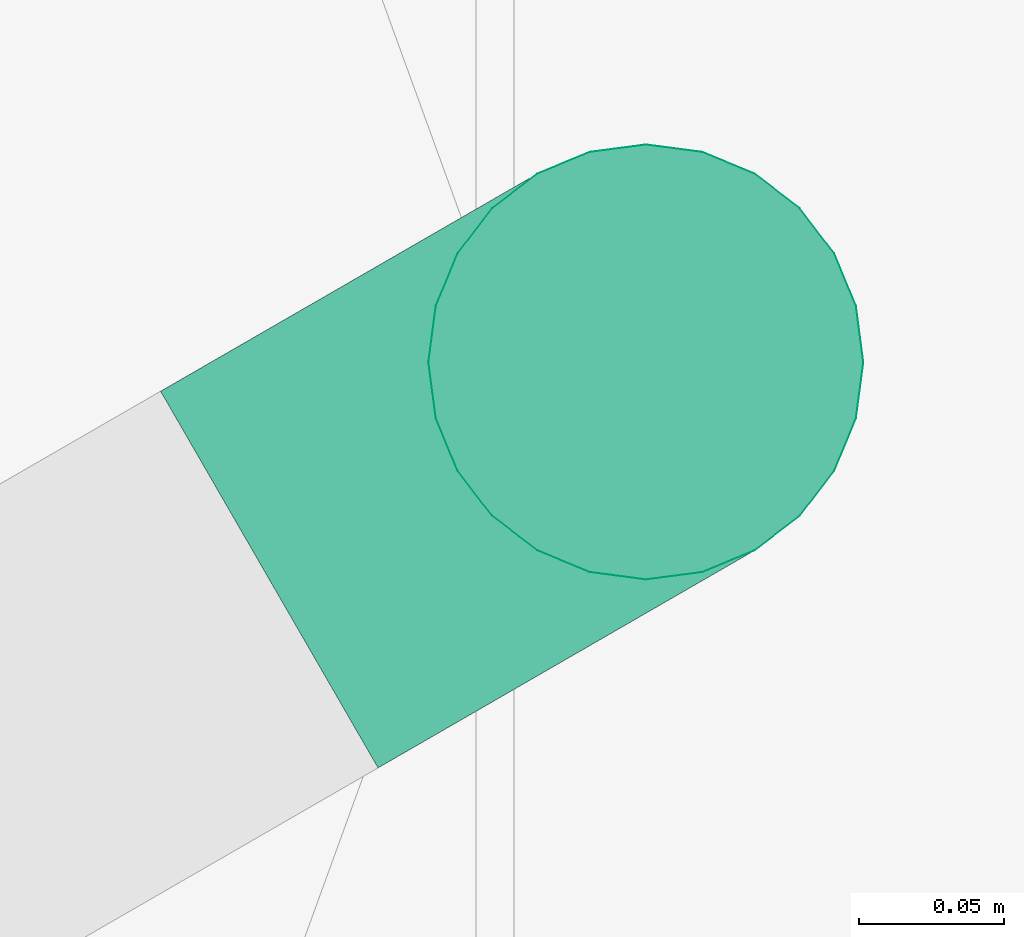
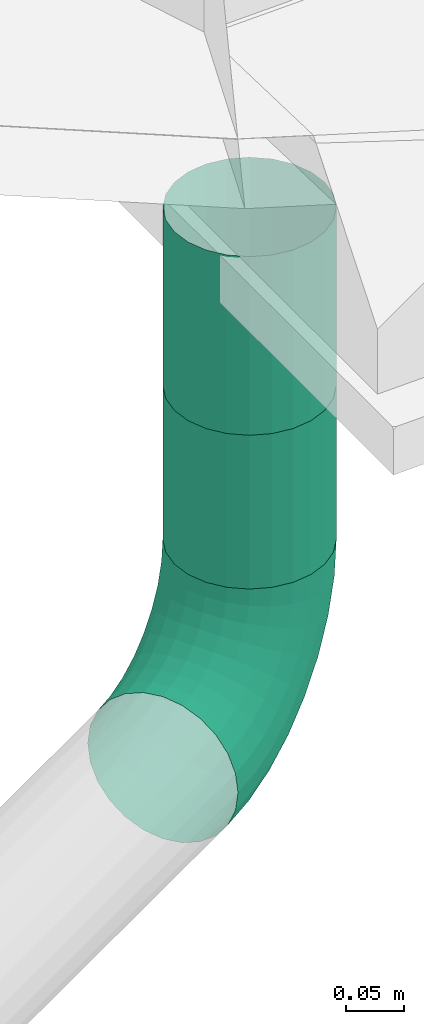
# One storey, part 8 of 8: 3 pipe segments.
"""IFC4 building model written with IfcOpenShell, lengths in millimetres."""

from ifc_helpers import new_model, entity, si_unit, converted_unit, derived_unit, direction, frame, origin_with_axes, place, context, subcontext, project, spatial, polygons, type_object, element, save


model = new_model("IFC4")

# Units and contexts
model_context = context("Model", 3, precision=0.01, world=origin_with_axes(), true_north=direction((0.0, 1.0)))
body_context = subcontext(model_context, "Body", "Model", "MODEL_VIEW")
ifc_project = project(units=[si_unit("LENGTHUNIT", "METRE", prefix="MILLI"), si_unit("AREAUNIT", "SQUARE_METRE"), si_unit("VOLUMEUNIT", "CUBIC_METRE"), converted_unit("PLANEANGLEUNIT", "DEGREE", entity("IfcPlaneAngleMeasure", 0.0174532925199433), si_unit("PLANEANGLEUNIT", "RADIAN"), dimensions=[0, 0, 0, 0, 0, 0, 0]), converted_unit("TIMEUNIT", "Year", entity("IfcTimeMeasure", 31557600.0), si_unit("TIMEUNIT", "SECOND"), dimensions=[0, 0, 1, 0, 0, 0, 0]), si_unit("MASSUNIT", "GRAM", prefix="KILO"), si_unit("THERMODYNAMICTEMPERATUREUNIT", "DEGREE_CELSIUS"), si_unit("LUMINOUSINTENSITYUNIT", "LUMEN"), si_unit("ENERGYUNIT", "JOULE", prefix="MEGA"), derived_unit("THERMALCONDUCTANCEUNIT", [(si_unit("POWERUNIT", "WATT"), 1), (si_unit("LENGTHUNIT", "METRE"), -1), (si_unit("THERMODYNAMICTEMPERATUREUNIT", "KELVIN"), -1)]), derived_unit("SPECIFICHEATCAPACITYUNIT", [(si_unit("ENERGYUNIT", "JOULE"), 1), (si_unit("MASSUNIT", "GRAM", prefix="KILO"), -1), (si_unit("THERMODYNAMICTEMPERATUREUNIT", "KELVIN"), -1)]), derived_unit("MASSDENSITYUNIT", [(si_unit("MASSUNIT", "GRAM", prefix="KILO"), 1), (si_unit("VOLUMEUNIT", "CUBIC_METRE"), -1)])], contexts=[model_context])

# Site, building, storey
site_placement = place(None, origin_with_axes())
site = spatial("IfcSite", under=ifc_project, at=site_placement, Name="Gelände", CompositionType="ELEMENT")
building_placement = place(site_placement, origin_with_axes())
building = spatial("IfcBuilding", under=site, at=building_placement, Name="Gebäude", CompositionType="ELEMENT")
storey_placement = place(building_placement, frame((0.0, 0.0, -6000.0), z_axis=(0.0, 0.0, 1.0), x_axis=(1.0, 0.0, 0.0)))
storey = spatial("IfcBuildingStorey", under=building, at=storey_placement, Name="Fundation", CompositionType="ELEMENT", Elevation=-6000.0)

# Pipe segments
pipe_segment_type = type_object("IfcPipeSegmentType", Name="IfcPipeSegment", PredefinedType="NOTDEFINED")
pipe_segment_1_placement = place(storey_placement, frame((-5525.464801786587, 31197.59725747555, 1087.897735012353), z_axis=(1.0, 0.0, 0.0), x_axis=(0.0, 1.0, 0.0)))
element("IfcPipeSegment", 1, at=pipe_segment_1_placement, inside=storey, type_object=pipe_segment_type, Name="Rohrbogen - 001", PredefinedType="NOTDEFINED", context=body_context, shape_type="Tessellation", body=[
    polygons([(-37.50000000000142, 0.0, -64.95190528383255), (-19.41142838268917, 0.0, -72.44443697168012), (-20.15653258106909, -15.13033976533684, -73.73499530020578), (-38.22055198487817, -14.63177415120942, -66.19993793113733), (0.0, 0.0, -75.00000000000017), (-0.817087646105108, -16.5920601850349, -76.41523731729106), (-22.36321123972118, -29.6792290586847, -77.55707485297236), (-40.35451753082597, -28.7012574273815, -69.89607467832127), (-53.03300858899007, 0.0, -53.03300858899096), (-53.77811278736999, -15.13033976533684, -54.32356691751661), (19.41142838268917, 0.0, -72.44443697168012), (18.47983160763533, -18.91732157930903, -74.05800991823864), (-3.236950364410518, -32.54649680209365, -80.60656249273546), (-25.94666293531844, -43.08756222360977, -83.76379525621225), (-43.81988953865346, -41.66776747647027, -75.89827506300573), (-55.98479144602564, -29.6792290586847, -58.1456464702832), (-64.95190528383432, 0.0, -37.49999999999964), (-65.76899292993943, -16.5920601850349, -38.91523731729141), (37.50000000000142, 0.0, -64.95190528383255), (36.41917202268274, -21.94766122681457, -66.82395425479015), (15.7208420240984, -37.10766109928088, -78.83672005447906), (-7.166594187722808, -47.25018979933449, -87.41290525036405), (-30.76917762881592, -54.84006453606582, -92.11663572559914), (-48.48349570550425, -53.03300858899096, -83.97587789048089), (-59.56824314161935, -43.08756222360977, -64.35236687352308), (-68.18885564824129, -32.54649680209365, -43.10656249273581), (-72.44443697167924, 0.0, -19.41142838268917), (-73.37603374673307, -18.91732157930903, -21.02500132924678), (53.03300858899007, 0.0, -53.03300858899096), (51.77839719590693, -25.47656648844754, -55.20605926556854), (33.21822370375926, -43.05188614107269, -72.36815937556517), (11.24048605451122, -53.8719740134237, -86.59692422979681), (-12.45500510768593, -60.13808450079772, -96.57270165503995), (-36.64542878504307, -64.48509392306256, -102.2946012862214), (-54.16611626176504, -62.36022092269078, -93.81846541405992), (-64.39075783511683, -54.84006453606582, -72.70520734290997), (-72.11849947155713, -47.25018979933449, -49.91290525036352), (-76.13502333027, -37.10766109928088, -25.80371146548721), (-74.99999999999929, 0.0, 0.0), (-76.08082797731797, -21.94766122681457, -1.872048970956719), (64.95190528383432, 0.0, -37.49999999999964), (63.51080131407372, -29.26354830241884, -39.9960652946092), (48.06277702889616, -49.97408281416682, -61.64170217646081), (28.02016569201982, -62.50165121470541, -81.37145995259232), (5.210941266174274, -68.56601717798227, -97.04040214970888), (-18.89895245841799, -70.71490634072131, -107.7339458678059), (-43.3495953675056, -71.65199731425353, -113.9065584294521), (-60.64937128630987, -69.29096493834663, -105.0477925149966), (-70.26700899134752, -64.48509392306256, -82.8831729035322), (-77.4069103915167, -60.13808450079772, -59.07270165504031), (-80.61537929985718, -53.8719740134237, -33.56391564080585), (-79.28177629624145, -43.05188614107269, -7.416254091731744), (-72.44443697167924, 0.0, 19.41142838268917), (-73.69904836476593, -25.47656648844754, 17.23837770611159), (72.44443697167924, 0.0, -19.41142838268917), (70.81684042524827, -33.05053011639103, -22.23050829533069), (59.24287022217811, -57.40251485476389, -47.38833878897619), (42.02893728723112, -72.55112316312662, -72.09261917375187), (21.02475644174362, -79.54951288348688, -93.48786419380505), (-2.136080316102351, -80.62510675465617, -109.7658168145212), (-26.25079895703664, -78.57419398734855, -120.467717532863), (-50.6240400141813, -76.06535463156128, -126.5062661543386), (-67.6841129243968, -73.55889603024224, -117.232322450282), (-76.97117557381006, -71.65199731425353, -94.49513004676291), (-83.85085774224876, -70.71490634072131, -70.23394586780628), (-86.64492408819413, -68.56601717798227, -44.00739356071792), (-84.4798343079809, -62.50165121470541, -16.41955466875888), (-77.4146685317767, -49.97408281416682, 10.80273479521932), (-64.95190528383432, 0.0, 37.49999999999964), (-66.39300925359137, -29.26354830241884, 35.00393470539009), (74.99999999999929, 0.0, 0.0), (73.19862003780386, -36.57943537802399, -3.120081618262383), (65.99659840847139, -64.83094689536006, -30.57941237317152), (52.31212620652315, -83.33553495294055, -59.39273955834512), (33.90875504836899, -92.34006453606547, -86.15718737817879), (12.50082560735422, -93.54033138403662, -108.2517454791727), (-10.51823677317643, -89.58581869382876, -124.2841376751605), (-34.22801726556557, -83.41391942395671, -134.2846649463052), (-58.18920989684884, -77.55556302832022, -139.6095247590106), (-74.99999999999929, -75.00000000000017, -129.903810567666), (-84.24562022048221, -76.06535463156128, -107.0948377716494), (-91.20270424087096, -78.57419398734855, -82.96771753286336), (-93.99194567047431, -80.62510675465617, -56.73280822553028), (-91.47524355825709, -79.54951288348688, -28.53595890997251), (-83.44850827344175, -72.55112316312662, 0.3518177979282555), (-70.66094034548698, -57.40251485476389, 27.61166121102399), (-53.03300858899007, 0.0, 53.03300858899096), (-54.66060513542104, -33.05053011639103, 50.21392867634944), (72.44443697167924, 0.0, 19.41142838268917), (70.49382580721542, -39.60977502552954, 16.03287074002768), (67.86370617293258, -71.75314356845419, -12.36042348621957), (58.16895011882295, -94.11994674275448, -44.13729691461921), (42.9849138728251, -106.0660171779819, -75.54794521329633), (24.01428436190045, -108.5804290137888, -103.2949133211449), (2.775943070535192, -103.9364474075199, -125.0957361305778), (-19.61340653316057, -95.1037978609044, -140.0374338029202), (-42.52404735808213, -85.04809471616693, -148.6538105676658), (-91.81079010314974, -77.55556302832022, -120.1980963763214), (-99.17992254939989, -83.41391942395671, -96.78466494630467), (-102.3741021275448, -89.58581869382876, -71.25112908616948), (-99.9991743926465, -93.54033138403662, -43.29984019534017), (-91.56869051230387, -92.34006453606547, -13.71275040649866), (-77.59168436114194, -83.33553495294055, 15.60726044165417), (-59.48084715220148, -64.83094689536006, 41.8650245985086), (-37.50000000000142, 0.0, 64.95190528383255), (-39.30137996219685, -36.57943537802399, 61.83182366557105), (64.95190528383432, 0.0, 37.49999999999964), (62.88678499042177, -41.93503641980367, 33.92310672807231), (64.71695320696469, -77.697368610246, 6.027033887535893), (59.2002761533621, -104.1694186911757, -27.36592444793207), (47.63470769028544, -119.7919698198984, -62.38314002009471), (31.61967276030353, -124.7204418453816, -95.23312026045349), (12.72576418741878, -120.648108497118, -122.8472038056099), (-7.776169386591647, -110.3383440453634, -143.3725310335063), (-29.07206732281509, -96.96699141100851, -156.420314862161), (-107.4759526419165, -85.04809471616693, -111.1538105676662), (-111.469271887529, -95.1037978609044, -87.00442521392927), (-109.724056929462, -103.9364474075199, -60.14383084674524), (-101.4631611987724, -108.5804290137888, -30.85047634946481), (-86.91889669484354, -106.0660171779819, -0.5479452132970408), (-67.30849544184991, -94.11994674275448, 28.30714005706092), (-44.63629382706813, -71.75314356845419, 52.59148179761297), (-19.41142838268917, 0.0, 72.44443697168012), (-21.36203954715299, -39.60977502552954, 69.06587932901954), (53.03300858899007, 0.0, 53.03300858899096), (50.89590484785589, -43.39675683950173, 49.33143632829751), (56.77078552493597, -82.25853290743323, 23.32988491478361), (55.33582114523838, -112.7990958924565, -10.2215634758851), (47.54126073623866, -132.5825214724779, -47.55993151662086), (34.79869615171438, -140.8604546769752, -84.61576417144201), (18.65316271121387, -138.5819298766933, -117.6917744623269), (0.4770060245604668, -128.0793488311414, -144.0626752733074), (-18.75000000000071, -112.4999999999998, -162.3797632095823), (-120.9279326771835, -96.96699141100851, -103.3873062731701), (-120.2761693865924, -110.3383440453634, -78.4206257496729), (-112.7516813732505, -120.648108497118, -50.40276683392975), (-98.28413780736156, -124.7204418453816, -20.23312026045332), (-77.84273787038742, -119.7919698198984, 10.06129695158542), (-53.29972384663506, -104.1694186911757, 37.58598083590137), (-27.13891214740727, -77.697368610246, 59.06004247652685), (0.0, 0.0, 75.00000000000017), (-2.065120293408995, -41.93503641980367, 71.42310672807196), (37.50000000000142, 0.0, 64.95190528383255), (35.33834404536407, -43.89532245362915, 61.20780734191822), (44.56672132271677, -85.1258006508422, 38.36896889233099), (46.83894131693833, -119.4208801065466, 6.127426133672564), (42.71094126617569, -143.5660171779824, -32.08849686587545), (33.33470934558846, -155.9005523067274, -72.16640032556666), (20.15419622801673, -156.5157512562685, -109.9807820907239), (4.583679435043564, -147.1177920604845, -142.0608343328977), (-12.26127721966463, -130.5885716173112, -166.1260290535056), (-131.2500000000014, -112.4999999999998, -97.4278579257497), (-125.0004395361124, -128.0793488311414, -71.61823830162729), (-111.2506478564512, -138.5819298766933, -42.69177446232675), (-90.67874940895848, -140.8604546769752, -12.17132719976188), (-64.95873926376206, -132.5825214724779, 17.39197376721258), (-36.52004420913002, -112.7990958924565, 42.81144511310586), (-8.181119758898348, -82.25853290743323, 60.82988491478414), (19.41142838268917, 0.0, 72.44443697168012), (17.27432464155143, -43.39675683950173, 68.74286471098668), (28.93644740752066, -86.10377228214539, 50.11939710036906), (34.28868498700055, -123.5835076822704, 20.56688775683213), (33.47292756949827, -151.993949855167, -17.02318877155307), (27.32748062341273, -168.8157769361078, -58.73343229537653), (17.12657178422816, -173.2274123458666, -100.2397180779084), (4.26398783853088, -166.1562352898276, -137.5034303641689), (-10.04809471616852, -150.0000000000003, -167.4038105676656), (-137.7387227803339, -130.5885716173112, -93.68159208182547), (-125.3201311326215, -147.1177920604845, -67.06083433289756), (-105.3232493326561, -156.5157512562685, -37.5363451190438), (-79.16529065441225, -155.9005523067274, -7.214495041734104), (-49.14492408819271, -143.5660171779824, 20.94451172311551), (-18.11296396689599, -119.4208801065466, 43.6274261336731), (10.94514111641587, -85.1258006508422, 57.78039727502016), (18.54033138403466, -125.0033024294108, 32.11279594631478), (20.45677501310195, -157.2919698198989, -3.390683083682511), (17.18639269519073, -178.7259773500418, -45.23229465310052), (9.776616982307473, -187.5780410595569, -89.13241983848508), (-0.4602823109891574, -183.8972400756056, -130.7010429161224), (-12.26127721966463, -169.4114283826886, -166.1260290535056), (-139.9519052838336, -150.0000000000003, -92.40381056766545), (-121.2134577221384, -166.1562352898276, -65.05899339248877), (-95.37342821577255, -173.2274123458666, -35.28781279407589), (-64.52838473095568, -168.8157769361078, -5.700423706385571), (-31.4789777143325, -151.993949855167, 20.47681122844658), (0.6671047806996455, -123.5835076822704, 39.9783161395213), (4.549512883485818, -159.0990257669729, 7.879987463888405), (3.602543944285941, -184.9557897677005, -32.58306761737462), (-1.394780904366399, -198.589665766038, -77.4158313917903), (-9.267179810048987, -199.1317862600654, -122.117243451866), (-18.75000000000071, -187.5, -162.3797632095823), (-137.7387227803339, -169.4114283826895, -93.68159208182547), (-112.9602823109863, -183.8972400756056, -65.74913763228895), (-82.07924837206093, -187.5780410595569, -36.09941124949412), (-47.76551258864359, -178.7259773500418, -7.73229465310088), (-13.16480519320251, -157.2919698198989, 16.02074529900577), (-12.49834878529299, -187.0806627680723, -21.6477751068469), (-15.6263095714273, -205.5118624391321, -65.88841887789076), (-21.55652914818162, -210.8216646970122, -112.3370037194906), (-29.07206732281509, -203.0330085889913, -156.420314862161), (-131.2500000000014, -187.5, -97.4278579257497), (-101.1230451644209, -199.1317862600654, -69.08423486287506), (-66.34668618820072, -198.589665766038, -39.91583139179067), (-30.01903626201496, -184.9557897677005, -13.17163923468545), (-31.94811385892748, -207.8728948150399, -55.33575640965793), (-36.49083147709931, -218.1702294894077, -102.0268308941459), (-42.52404735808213, -214.9519052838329, -148.6538105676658), (-120.9279326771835, -203.0330085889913, -103.3873062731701), (-86.50843443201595, -210.8216646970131, -74.83700371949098), (-49.2478897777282, -205.5118624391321, -46.4769904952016), (-53.05233877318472, -220.6766880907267, -91.88934621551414), (-58.18920989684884, -222.4444369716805, -139.6095247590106), (-107.4759526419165, -214.9519052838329, -111.1538105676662), (-70.11241168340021, -218.1702294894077, -82.61540251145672), (-74.99999999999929, -224.9999999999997, -129.903810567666), (-91.81079010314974, -222.4444369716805, -120.1980963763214)], [[[1, 2, 3, 4]], [[2, 5, 6, 3]], [[4, 3, 7, 8]], [[9, 1, 4, 10]], [[5, 11, 12, 6]], [[3, 6, 13, 7]], [[8, 7, 14, 15]], [[10, 4, 8, 16]], [[17, 9, 10, 18]], [[11, 19, 20, 12]], [[6, 12, 21, 13]], [[7, 13, 22, 14]], [[15, 14, 23, 24]], [[16, 8, 15, 25]], [[18, 10, 16, 26]], [[27, 17, 18, 28]], [[19, 29, 30, 20]], [[12, 20, 31, 21]], [[13, 21, 32, 22]], [[14, 22, 33, 23]], [[24, 23, 34, 35]], [[25, 15, 24, 36]], [[26, 16, 25, 37]], [[28, 18, 26, 38]], [[39, 27, 28, 40]], [[29, 41, 42, 30]], [[20, 30, 43, 31]], [[21, 31, 44, 32]], [[22, 32, 45, 33]], [[23, 33, 46, 34]], [[35, 34, 47, 48]], [[36, 24, 35, 49]], [[37, 25, 36, 50]], [[38, 26, 37, 51]], [[40, 28, 38, 52]], [[53, 39, 40, 54]], [[41, 55, 56, 42]], [[30, 42, 57, 43]], [[31, 43, 58, 44]], [[32, 44, 59, 45]], [[33, 45, 60, 46]], [[34, 46, 61, 47]], [[48, 47, 62, 63]], [[49, 35, 48, 64]], [[50, 36, 49, 65]], [[51, 37, 50, 66]], [[52, 38, 51, 67]], [[54, 40, 52, 68]], [[69, 53, 54, 70]], [[55, 71, 72, 56]], [[42, 56, 73, 57]], [[43, 57, 74, 58]], [[44, 58, 75, 59]], [[45, 59, 76, 60]], [[46, 60, 77, 61]], [[47, 61, 78, 62]], [[63, 62, 79, 80]], [[64, 48, 63, 81]], [[65, 49, 64, 82]], [[66, 50, 65, 83]], [[67, 51, 66, 84]], [[68, 52, 67, 85]], [[70, 54, 68, 86]], [[87, 69, 70, 88]], [[71, 89, 90, 72]], [[56, 72, 91, 73]], [[57, 73, 92, 74]], [[58, 74, 93, 75]], [[59, 75, 94, 76]], [[60, 76, 95, 77]], [[61, 77, 96, 78]], [[62, 78, 97, 79]], [[81, 63, 80, 98]], [[82, 64, 81, 99]], [[83, 65, 82, 100]], [[84, 66, 83, 101]], [[85, 67, 84, 102]], [[86, 68, 85, 103]], [[88, 70, 86, 104]], [[105, 87, 88, 106]], [[89, 107, 108, 90]], [[72, 90, 109, 91]], [[73, 91, 110, 92]], [[74, 92, 111, 93]], [[75, 93, 112, 94]], [[76, 94, 113, 95]], [[77, 95, 114, 96]], [[78, 96, 115, 97]], [[99, 81, 98, 116]], [[100, 82, 99, 117]], [[101, 83, 100, 118]], [[102, 84, 101, 119]], [[103, 85, 102, 120]], [[104, 86, 103, 121]], [[106, 88, 104, 122]], [[123, 105, 106, 124]], [[107, 125, 126, 108]], [[90, 108, 127, 109]], [[91, 109, 128, 110]], [[92, 110, 129, 111]], [[93, 111, 130, 112]], [[94, 112, 131, 113]], [[95, 113, 132, 114]], [[96, 114, 133, 115]], [[117, 99, 116, 134]], [[118, 100, 117, 135]], [[119, 101, 118, 136]], [[120, 102, 119, 137]], [[121, 103, 120, 138]], [[122, 104, 121, 139]], [[124, 106, 122, 140]], [[141, 123, 124, 142]], [[125, 143, 144, 126]], [[108, 126, 145, 127]], [[109, 127, 146, 128]], [[110, 128, 147, 129]], [[111, 129, 148, 130]], [[112, 130, 149, 131]], [[113, 131, 150, 132]], [[114, 132, 151, 133]], [[135, 117, 134, 152]], [[136, 118, 135, 153]], [[137, 119, 136, 154]], [[138, 120, 137, 155]], [[139, 121, 138, 156]], [[140, 122, 139, 157]], [[142, 124, 140, 158]], [[159, 141, 142, 160]], [[143, 159, 160, 144]], [[126, 144, 161, 145]], [[127, 145, 162, 146]], [[128, 146, 163, 147]], [[129, 147, 164, 148]], [[130, 148, 165, 149]], [[131, 149, 166, 150]], [[132, 150, 167, 151]], [[153, 135, 152, 168]], [[154, 136, 153, 169]], [[155, 137, 154, 170]], [[156, 138, 155, 171]], [[157, 139, 156, 172]], [[158, 140, 157, 173]], [[160, 142, 158, 174]], [[144, 160, 174, 161]], [[145, 161, 175, 162]], [[146, 162, 176, 163]], [[147, 163, 177, 164]], [[148, 164, 178, 165]], [[149, 165, 179, 166]], [[150, 166, 180, 167]], [[169, 153, 168, 181]], [[170, 154, 169, 182]], [[171, 155, 170, 183]], [[172, 156, 171, 184]], [[173, 157, 172, 185]], [[174, 158, 173, 186]], [[161, 174, 186, 175]], [[162, 175, 187, 176]], [[163, 176, 188, 177]], [[164, 177, 189, 178]], [[165, 178, 190, 179]], [[166, 179, 191, 180]], [[182, 169, 181, 192]], [[183, 170, 182, 193]], [[184, 171, 183, 194]], [[185, 172, 184, 195]], [[186, 173, 185, 196]], [[175, 186, 196, 187]], [[176, 187, 197, 188]], [[177, 188, 198, 189]], [[178, 189, 199, 190]], [[179, 190, 200, 191]], [[193, 182, 192, 201]], [[194, 183, 193, 202]], [[195, 184, 194, 203]], [[196, 185, 195, 204]], [[187, 196, 204, 197]], [[188, 197, 205, 198]], [[189, 198, 206, 199]], [[190, 199, 207, 200]], [[202, 193, 201, 208]], [[203, 194, 202, 209]], [[204, 195, 203, 210]], [[197, 204, 210, 205]], [[198, 205, 211, 206]], [[199, 206, 212, 207]], [[209, 202, 208, 213]], [[210, 203, 209, 214]], [[205, 210, 214, 211]], [[206, 211, 215, 212]], [[214, 209, 213, 216]], [[211, 214, 216, 215]]], closed=False),
])
pipe_segment_2_placement = place(storey_placement, frame((-5525.464801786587, 31197.59725747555, 1250.094429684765), z_axis=(1.0, 0.0, 0.0), x_axis=(0.0, 1.0, 0.0)))
element("IfcPipeSegment", 2, at=pipe_segment_2_placement, inside=storey, type_object=pipe_segment_type, Name="Rohr - 001", PredefinedType="NOTDEFINED", context=body_context, shape_type="Tessellation", body=[
    polygons([(37.50000000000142, 0.0, 64.95190528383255), (19.41142838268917, 0.0, 72.44443697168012), (19.41142838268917, -162.1966946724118, 72.44443697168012), (37.50000000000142, -162.1966946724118, 64.95190528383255), (0.0, 0.0, 75.00000000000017), (0.0, -162.1966946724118, 75.00000000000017), (53.03300858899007, 0.0, 53.03300858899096), (53.03300858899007, -162.1966946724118, 53.03300858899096), (-19.41142838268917, 0.0, 72.44443697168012), (-19.41142838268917, -162.1966946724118, 72.44443697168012), (64.95190528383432, 0.0, 37.49999999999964), (64.95190528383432, -162.1966946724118, 37.49999999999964), (-37.50000000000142, 0.0, 64.95190528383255), (-37.50000000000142, -162.1966946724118, 64.95190528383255), (72.44443697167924, 0.0, 19.41142838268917), (72.44443697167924, -162.1966946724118, 19.41142838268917), (-53.03300858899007, 0.0, 53.03300858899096), (-53.03300858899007, -162.1966946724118, 53.03300858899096), (74.99999999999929, 0.0, 0.0), (74.99999999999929, -162.1966946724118, 0.0), (-64.95190528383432, 0.0, 37.49999999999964), (-64.95190528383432, -162.1966946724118, 37.49999999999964), (72.44443697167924, 0.0, -19.41142838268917), (72.44443697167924, -162.1966946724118, -19.41142838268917), (-72.44443697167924, 0.0, 19.41142838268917), (-72.44443697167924, -162.1966946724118, 19.41142838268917), (64.95190528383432, 0.0, -37.49999999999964), (64.95190528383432, -162.1966946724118, -37.49999999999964), (-74.99999999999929, 0.0, 0.0), (-74.99999999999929, -162.1966946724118, 0.0), (53.03300858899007, 0.0, -53.03300858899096), (53.03300858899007, -162.1966946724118, -53.03300858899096), (-72.44443697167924, 0.0, -19.41142838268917), (-72.44443697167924, -162.1966946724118, -19.41142838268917), (37.50000000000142, 0.0, -64.95190528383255), (37.50000000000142, -162.1966946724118, -64.95190528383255), (-64.95190528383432, 0.0, -37.49999999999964), (-64.95190528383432, -162.1966946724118, -37.49999999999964), (19.41142838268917, 0.0, -72.44443697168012), (19.41142838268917, -162.1966946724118, -72.44443697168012), (-53.03300858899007, 0.0, -53.03300858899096), (-53.03300858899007, -162.1966946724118, -53.03300858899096), (0.0, 0.0, -75.00000000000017), (0.0, -162.1966946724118, -75.00000000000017), (-37.50000000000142, 0.0, -64.95190528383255), (-37.50000000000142, -162.1966946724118, -64.95190528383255), (-19.41142838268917, 0.0, -72.44443697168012), (-19.41142838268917, -162.1966946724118, -72.44443697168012)], [[[1, 2, 3, 4]], [[2, 5, 6, 3]], [[7, 1, 4, 8]], [[5, 9, 10, 6]], [[11, 7, 8, 12]], [[9, 13, 14, 10]], [[15, 11, 12, 16]], [[13, 17, 18, 14]], [[19, 15, 16, 20]], [[17, 21, 22, 18]], [[23, 19, 20, 24]], [[21, 25, 26, 22]], [[27, 23, 24, 28]], [[25, 29, 30, 26]], [[31, 27, 28, 32]], [[29, 33, 34, 30]], [[35, 31, 32, 36]], [[33, 37, 38, 34]], [[39, 35, 36, 40]], [[37, 41, 42, 38]], [[43, 39, 40, 44]], [[41, 45, 46, 42]], [[47, 43, 44, 48]], [[45, 47, 48, 46]]], closed=False),
])
pipe_segment_3_placement = place(storey_placement, frame((-5525.464801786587, 31197.59725747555, 1438.468103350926), z_axis=(1.0, 0.0, 0.0), x_axis=(0.0, 1.0, 0.0)))
element("IfcPipeSegment", 3, at=pipe_segment_3_placement, inside=storey, type_object=pipe_segment_type, Name="Rohr - 001", PredefinedType="NOTDEFINED", context=body_context, shape_type="Tessellation", body=[
    polygons([(37.50000000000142, 0.0, 64.95190528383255), (19.41142838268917, 0.0, 72.44443697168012), (19.41142838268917, -188.3736736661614, 72.44443697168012), (37.50000000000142, -188.3736736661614, 64.95190528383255), (0.0, 0.0, 75.00000000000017), (0.0, -188.3736736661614, 75.00000000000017), (53.03300858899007, 0.0, 53.03300858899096), (53.03300858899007, -188.3736736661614, 53.03300858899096), (-19.41142838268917, 0.0, 72.44443697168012), (-19.41142838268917, -188.3736736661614, 72.44443697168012), (64.95190528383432, 0.0, 37.49999999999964), (64.95190528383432, -188.3736736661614, 37.49999999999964), (-37.50000000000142, 0.0, 64.95190528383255), (-37.50000000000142, -188.3736736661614, 64.95190528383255), (72.44443697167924, 0.0, 19.41142838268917), (72.44443697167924, -188.3736736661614, 19.41142838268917), (-53.03300858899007, 0.0, 53.03300858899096), (-53.03300858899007, -188.3736736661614, 53.03300858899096), (74.99999999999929, 0.0, 0.0), (74.99999999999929, -188.3736736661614, 0.0), (-64.95190528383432, 0.0, 37.49999999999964), (-64.95190528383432, -188.3736736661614, 37.49999999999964), (72.44443697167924, 0.0, -19.41142838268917), (72.44443697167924, -188.3736736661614, -19.41142838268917), (-72.44443697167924, 0.0, 19.41142838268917), (-72.44443697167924, -188.3736736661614, 19.41142838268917), (64.95190528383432, 0.0, -37.49999999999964), (64.95190528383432, -188.3736736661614, -37.49999999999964), (-74.99999999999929, 0.0, 0.0), (-74.99999999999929, -188.3736736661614, 0.0), (53.03300858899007, 0.0, -53.03300858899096), (53.03300858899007, -188.3736736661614, -53.03300858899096), (-72.44443697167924, 0.0, -19.41142838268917), (-72.44443697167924, -188.3736736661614, -19.41142838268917), (37.50000000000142, 0.0, -64.95190528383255), (37.50000000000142, -188.3736736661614, -64.95190528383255), (-64.95190528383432, 0.0, -37.49999999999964), (-64.95190528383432, -188.3736736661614, -37.49999999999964), (19.41142838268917, 0.0, -72.44443697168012), (19.41142838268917, -188.3736736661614, -72.44443697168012), (-53.03300858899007, 0.0, -53.03300858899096), (-53.03300858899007, -188.3736736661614, -53.03300858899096), (0.0, 0.0, -75.00000000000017), (0.0, -188.3736736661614, -75.00000000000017), (-37.50000000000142, 0.0, -64.95190528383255), (-37.50000000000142, -188.3736736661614, -64.95190528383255), (-19.41142838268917, 0.0, -72.44443697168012), (-19.41142838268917, -188.3736736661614, -72.44443697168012)], [[[1, 2, 3, 4]], [[2, 5, 6, 3]], [[7, 1, 4, 8]], [[5, 9, 10, 6]], [[11, 7, 8, 12]], [[9, 13, 14, 10]], [[15, 11, 12, 16]], [[13, 17, 18, 14]], [[19, 15, 16, 20]], [[17, 21, 22, 18]], [[23, 19, 20, 24]], [[21, 25, 26, 22]], [[27, 23, 24, 28]], [[25, 29, 30, 26]], [[31, 27, 28, 32]], [[29, 33, 34, 30]], [[35, 31, 32, 36]], [[33, 37, 38, 34]], [[39, 35, 36, 40]], [[37, 41, 42, 38]], [[43, 39, 40, 44]], [[41, 45, 46, 42]], [[47, 43, 44, 48]], [[45, 47, 48, 46]]], closed=False),
])

save(model, "model.ifc")
